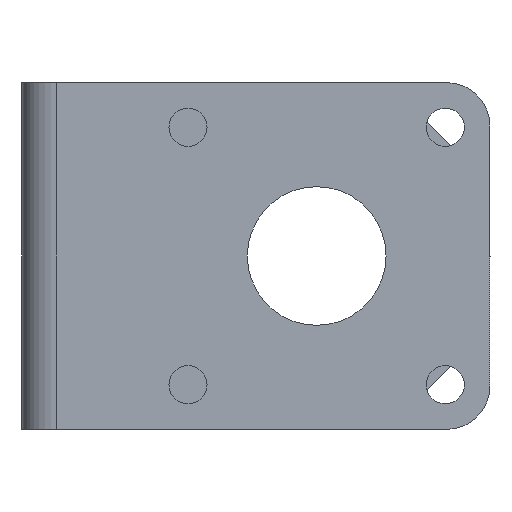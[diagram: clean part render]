
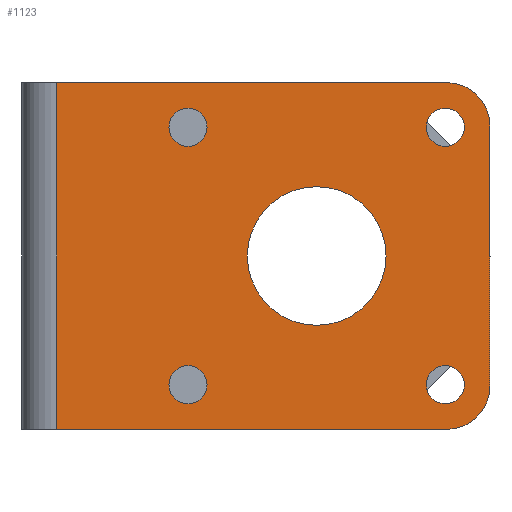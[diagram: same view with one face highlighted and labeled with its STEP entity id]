
A CAD part, left-side view. The second image highlights one B-rep face of the part: STEP entity #1123.
In plain terms, the highlighted planar face has unit normal (-1, 0, 0).
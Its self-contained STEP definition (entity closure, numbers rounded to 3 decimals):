
#361=CARTESIAN_POINT('',(-22.1,-23.5,-7.5));
#362=DIRECTION('',(-1.,0.,0.));
#363=DIRECTION('',(0.,0.,-1.));
#364=AXIS2_PLACEMENT_3D('',#361,#362,#363);
#366=DIRECTION('',(0.,-1.,0.));
#367=VECTOR('',#366,22.5);
#368=CARTESIAN_POINT('',(-22.1,-1.,-10.));
#369=LINE('',#368,#367);
#370=DIRECTION('',(0.,1.,0.));
#371=VECTOR('',#370,22.5);
#372=CARTESIAN_POINT('',(-22.1,-23.5,10.));
#373=LINE('',#372,#371);
#374=CARTESIAN_POINT('',(-22.1,-23.5,7.5));
#375=DIRECTION('',(-1.,0.,0.));
#376=DIRECTION('',(0.,-1.,0.));
#377=AXIS2_PLACEMENT_3D('',#374,#375,#376);
#379=DIRECTION('',(0.,0.,1.));
#380=VECTOR('',#379,15.);
#381=CARTESIAN_POINT('',(-22.1,-26.,-7.5));
#382=LINE('',#381,#380);
#383=CARTESIAN_POINT('',(-22.1,-23.425,7.425));
#384=DIRECTION('',(-1.,0.,0.));
#385=DIRECTION('',(0.,1.,0.));
#386=AXIS2_PLACEMENT_3D('',#383,#384,#385);
#388=CARTESIAN_POINT('',(-22.1,-23.425,7.425));
#389=DIRECTION('',(-1.,0.,0.));
#390=DIRECTION('',(0.,-1.,0.));
#391=AXIS2_PLACEMENT_3D('',#388,#389,#390);
#393=CARTESIAN_POINT('',(-22.1,-8.575,7.425));
#394=DIRECTION('',(-1.,0.,0.));
#395=DIRECTION('',(0.,1.,0.));
#396=AXIS2_PLACEMENT_3D('',#393,#394,#395);
#398=CARTESIAN_POINT('',(-22.1,-8.575,7.425));
#399=DIRECTION('',(-1.,0.,0.));
#400=DIRECTION('',(0.,-1.,0.));
#401=AXIS2_PLACEMENT_3D('',#398,#399,#400);
#403=CARTESIAN_POINT('',(-22.1,-8.575,-7.425));
#404=DIRECTION('',(-1.,0.,0.));
#405=DIRECTION('',(0.,1.,0.));
#406=AXIS2_PLACEMENT_3D('',#403,#404,#405);
#408=CARTESIAN_POINT('',(-22.1,-8.575,-7.425));
#409=DIRECTION('',(-1.,0.,0.));
#410=DIRECTION('',(0.,-1.,0.));
#411=AXIS2_PLACEMENT_3D('',#408,#409,#410);
#413=CARTESIAN_POINT('',(-22.1,-23.425,-7.425));
#414=DIRECTION('',(-1.,0.,0.));
#415=DIRECTION('',(0.,1.,0.));
#416=AXIS2_PLACEMENT_3D('',#413,#414,#415);
#418=CARTESIAN_POINT('',(-22.1,-23.425,-7.425));
#419=DIRECTION('',(-1.,0.,0.));
#420=DIRECTION('',(0.,-1.,0.));
#421=AXIS2_PLACEMENT_3D('',#418,#419,#420);
#423=CARTESIAN_POINT('',(-22.1,-16.,0.));
#424=DIRECTION('',(-1.,0.,0.));
#425=DIRECTION('',(0.,1.,0.));
#426=AXIS2_PLACEMENT_3D('',#423,#424,#425);
#428=CARTESIAN_POINT('',(-22.1,-16.,0.));
#429=DIRECTION('',(-1.,0.,0.));
#430=DIRECTION('',(0.,-1.,0.));
#431=AXIS2_PLACEMENT_3D('',#428,#429,#430);
#433=DIRECTION('',(0.,0.,-1.));
#434=VECTOR('',#433,20.);
#435=CARTESIAN_POINT('',(-22.1,-1.,10.));
#436=LINE('',#435,#434);
#620=CARTESIAN_POINT('',(-22.1,-1.,10.));
#622=VERTEX_POINT('',#620);
#626=CARTESIAN_POINT('',(-22.1,-1.,-10.));
#628=VERTEX_POINT('',#626);
#651=CARTESIAN_POINT('',(-22.1,-23.5,-10.));
#652=CARTESIAN_POINT('',(-22.1,-26.,-7.5));
#653=VERTEX_POINT('',#651);
#654=VERTEX_POINT('',#652);
#659=CARTESIAN_POINT('',(-22.1,-26.,7.5));
#660=CARTESIAN_POINT('',(-22.1,-23.5,10.));
#661=VERTEX_POINT('',#659);
#662=VERTEX_POINT('',#660);
#747=CARTESIAN_POINT('',(-22.1,-22.325,7.425));
#748=CARTESIAN_POINT('',(-22.1,-24.525,7.425));
#749=VERTEX_POINT('',#747);
#750=VERTEX_POINT('',#748);
#751=CARTESIAN_POINT('',(-22.1,-7.475,7.425));
#752=CARTESIAN_POINT('',(-22.1,-9.675,7.425));
#753=VERTEX_POINT('',#751);
#754=VERTEX_POINT('',#752);
#755=CARTESIAN_POINT('',(-22.1,-7.475,-7.425));
#756=CARTESIAN_POINT('',(-22.1,-9.675,-7.425));
#757=VERTEX_POINT('',#755);
#758=VERTEX_POINT('',#756);
#759=CARTESIAN_POINT('',(-22.1,-22.325,-7.425));
#760=CARTESIAN_POINT('',(-22.1,-24.525,-7.425));
#761=VERTEX_POINT('',#759);
#762=VERTEX_POINT('',#760);
#763=CARTESIAN_POINT('',(-22.1,-12.,0.));
#764=CARTESIAN_POINT('',(-22.1,-20.,0.));
#765=VERTEX_POINT('',#763);
#766=VERTEX_POINT('',#764);
#1076=CARTESIAN_POINT('',(-22.1,20.1,0.));
#1077=DIRECTION('',(-1.,0.,0.));
#1078=DIRECTION('',(0.,1.,0.));
#1079=AXIS2_PLACEMENT_3D('',#1076,#1077,#1078);
#1080=PLANE('',#1079);
#1081=ORIENTED_EDGE('',*,*,#1067,.F.);
#1082=ORIENTED_EDGE('',*,*,#1057,.F.);
#1084=ORIENTED_EDGE('',*,*,#1083,.F.);
#1086=ORIENTED_EDGE('',*,*,#1085,.F.);
#1088=ORIENTED_EDGE('',*,*,#1087,.F.);
#1090=ORIENTED_EDGE('',*,*,#1089,.F.);
#1091=EDGE_LOOP('',(#1081,#1082,#1084,#1086,#1088,#1090));
#1092=FACE_OUTER_BOUND('',#1091,.F.);
#1094=ORIENTED_EDGE('',*,*,#1093,.T.);
#1096=ORIENTED_EDGE('',*,*,#1095,.T.);
#1097=EDGE_LOOP('',(#1094,#1096));
#1098=FACE_BOUND('',#1097,.F.);
#1100=ORIENTED_EDGE('',*,*,#1099,.T.);
#1102=ORIENTED_EDGE('',*,*,#1101,.T.);
#1103=EDGE_LOOP('',(#1100,#1102));
#1104=FACE_BOUND('',#1103,.F.);
#1106=ORIENTED_EDGE('',*,*,#1105,.T.);
#1108=ORIENTED_EDGE('',*,*,#1107,.T.);
#1109=EDGE_LOOP('',(#1106,#1108));
#1110=FACE_BOUND('',#1109,.F.);
#1112=ORIENTED_EDGE('',*,*,#1111,.T.);
#1114=ORIENTED_EDGE('',*,*,#1113,.T.);
#1115=EDGE_LOOP('',(#1112,#1114));
#1116=FACE_BOUND('',#1115,.F.);
#1118=ORIENTED_EDGE('',*,*,#1117,.T.);
#1120=ORIENTED_EDGE('',*,*,#1119,.T.);
#1121=EDGE_LOOP('',(#1118,#1120));
#1122=FACE_BOUND('',#1121,.F.);
#365=CIRCLE('',#364,2.5);
#378=CIRCLE('',#377,2.5);
#387=CIRCLE('',#386,1.1);
#392=CIRCLE('',#391,1.1);
#397=CIRCLE('',#396,1.1);
#402=CIRCLE('',#401,1.1);
#407=CIRCLE('',#406,1.1);
#412=CIRCLE('',#411,1.1);
#417=CIRCLE('',#416,1.1);
#422=CIRCLE('',#421,1.1);
#427=CIRCLE('',#426,4.);
#432=CIRCLE('',#431,4.);
#1057=EDGE_CURVE('',#628,#653,#369,.T.);
#1067=EDGE_CURVE('',#653,#654,#365,.T.);
#1083=EDGE_CURVE('',#622,#628,#436,.T.);
#1085=EDGE_CURVE('',#662,#622,#373,.T.);
#1087=EDGE_CURVE('',#661,#662,#378,.T.);
#1089=EDGE_CURVE('',#654,#661,#382,.T.);
#1093=EDGE_CURVE('',#749,#750,#387,.T.);
#1095=EDGE_CURVE('',#750,#749,#392,.T.);
#1099=EDGE_CURVE('',#753,#754,#397,.T.);
#1101=EDGE_CURVE('',#754,#753,#402,.T.);
#1105=EDGE_CURVE('',#757,#758,#407,.T.);
#1107=EDGE_CURVE('',#758,#757,#412,.T.);
#1111=EDGE_CURVE('',#761,#762,#417,.T.);
#1113=EDGE_CURVE('',#762,#761,#422,.T.);
#1117=EDGE_CURVE('',#765,#766,#427,.T.);
#1119=EDGE_CURVE('',#766,#765,#432,.T.);
#1123=ADVANCED_FACE('',(#1092,#1098,#1104,#1110,#1116,#1122),#1080,.T.);
